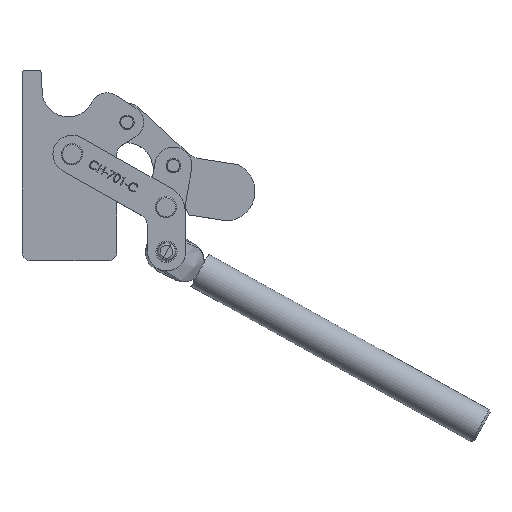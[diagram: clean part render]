
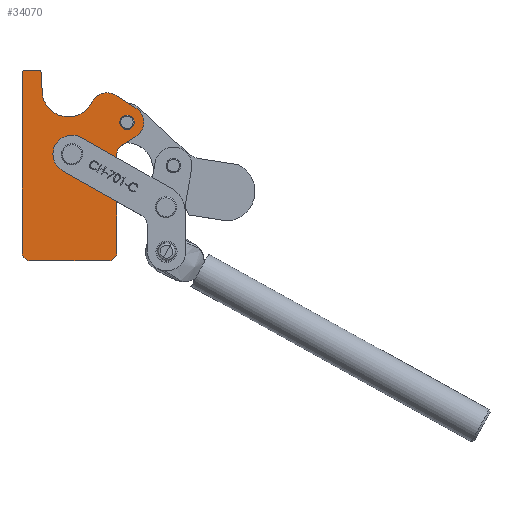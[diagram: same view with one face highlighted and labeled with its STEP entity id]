
A CAD part, top view. The second image highlights one B-rep face of the part: STEP entity #34070.
In plain terms, the highlighted planar face has unit normal (0, 0, 1).
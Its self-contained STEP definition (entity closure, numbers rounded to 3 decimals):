
#1357=FACE_BOUND('',#4411,.T.);
#1358=FACE_BOUND('',#4412,.T.);
#1432=PLANE('',#36249);
#2512=FACE_OUTER_BOUND('',#4410,.T.);
#4410=EDGE_LOOP('',(#22647,#22648,#22649,#22650,#22651,#22652,#22653,#22654,
#22655,#22656,#22657,#22658,#22659,#22660,#22661));
#4411=EDGE_LOOP('',(#22662,#22663));
#4412=EDGE_LOOP('',(#22664,#22665));
#6383=LINE('',#49368,#9156);
#6384=LINE('',#49372,#9157);
#6385=LINE('',#49376,#9158);
#6386=LINE('',#49380,#9159);
#6387=LINE('',#49384,#9160);
#6388=LINE('',#49388,#9161);
#6389=LINE('',#49391,#9162);
#9156=VECTOR('',#39712,1000.);
#9157=VECTOR('',#39715,1000.);
#9158=VECTOR('',#39718,1000.);
#9159=VECTOR('',#39721,1000.);
#9160=VECTOR('',#39724,1000.);
#9161=VECTOR('',#39727,1000.);
#9162=VECTOR('',#39730,1000.);
#11927=CIRCLE('',#36240,3.425);
#11930=CIRCLE('',#36243,3.425);
#11931=CIRCLE('',#36245,4.7);
#11934=CIRCLE('',#36248,4.7);
#11935=CIRCLE('',#36250,8.);
#11936=CIRCLE('',#36251,12.4);
#11937=CIRCLE('',#36252,1.5);
#11938=CIRCLE('',#36253,1.5);
#11939=CIRCLE('',#36254,4.);
#11940=CIRCLE('',#36255,4.);
#11941=CIRCLE('',#36256,4.);
#11942=CIRCLE('',#36257,8.);
#13618=VERTEX_POINT('',#49342);
#13619=VERTEX_POINT('',#49343);
#13622=VERTEX_POINT('',#49352);
#13623=VERTEX_POINT('',#49353);
#13626=VERTEX_POINT('',#49362);
#13627=VERTEX_POINT('',#49363);
#13628=VERTEX_POINT('',#49365);
#13629=VERTEX_POINT('',#49367);
#13630=VERTEX_POINT('',#49369);
#13631=VERTEX_POINT('',#49371);
#13632=VERTEX_POINT('',#49373);
#13633=VERTEX_POINT('',#49375);
#13634=VERTEX_POINT('',#49377);
#13635=VERTEX_POINT('',#49379);
#13636=VERTEX_POINT('',#49381);
#13637=VERTEX_POINT('',#49383);
#13638=VERTEX_POINT('',#49385);
#13639=VERTEX_POINT('',#49387);
#13640=VERTEX_POINT('',#49389);
#17211=EDGE_CURVE('',#13618,#13619,#11927,.T.);
#17215=EDGE_CURVE('',#13619,#13618,#11930,.T.);
#17216=EDGE_CURVE('',#13622,#13623,#11931,.T.);
#17220=EDGE_CURVE('',#13623,#13622,#11934,.T.);
#17221=EDGE_CURVE('',#13626,#13627,#11935,.T.);
#17222=EDGE_CURVE('',#13627,#13628,#11936,.T.);
#17223=EDGE_CURVE('',#13628,#13629,#6383,.T.);
#17224=EDGE_CURVE('',#13629,#13630,#11937,.T.);
#17225=EDGE_CURVE('',#13630,#13631,#6384,.T.);
#17226=EDGE_CURVE('',#13631,#13632,#11938,.T.);
#17227=EDGE_CURVE('',#13632,#13633,#6385,.T.);
#17228=EDGE_CURVE('',#13633,#13634,#11939,.T.);
#17229=EDGE_CURVE('',#13634,#13635,#6386,.T.);
#17230=EDGE_CURVE('',#13635,#13636,#11940,.T.);
#17231=EDGE_CURVE('',#13636,#13637,#6387,.T.);
#17232=EDGE_CURVE('',#13637,#13638,#11941,.T.);
#17233=EDGE_CURVE('',#13638,#13639,#6388,.T.);
#17234=EDGE_CURVE('',#13639,#13640,#11942,.T.);
#17235=EDGE_CURVE('',#13640,#13626,#6389,.T.);
#22647=ORIENTED_EDGE('',*,*,#17221,.T.);
#22648=ORIENTED_EDGE('',*,*,#17222,.T.);
#22649=ORIENTED_EDGE('',*,*,#17223,.T.);
#22650=ORIENTED_EDGE('',*,*,#17224,.T.);
#22651=ORIENTED_EDGE('',*,*,#17225,.T.);
#22652=ORIENTED_EDGE('',*,*,#17226,.T.);
#22653=ORIENTED_EDGE('',*,*,#17227,.T.);
#22654=ORIENTED_EDGE('',*,*,#17228,.T.);
#22655=ORIENTED_EDGE('',*,*,#17229,.T.);
#22656=ORIENTED_EDGE('',*,*,#17230,.T.);
#22657=ORIENTED_EDGE('',*,*,#17231,.T.);
#22658=ORIENTED_EDGE('',*,*,#17232,.T.);
#22659=ORIENTED_EDGE('',*,*,#17233,.T.);
#22660=ORIENTED_EDGE('',*,*,#17234,.T.);
#22661=ORIENTED_EDGE('',*,*,#17235,.T.);
#22662=ORIENTED_EDGE('',*,*,#17211,.F.);
#22663=ORIENTED_EDGE('',*,*,#17215,.F.);
#22664=ORIENTED_EDGE('',*,*,#17216,.F.);
#22665=ORIENTED_EDGE('',*,*,#17220,.F.);
#34070=ADVANCED_FACE('',(#2512,#1357,#1358),#1432,.T.);
#36240=AXIS2_PLACEMENT_3D('',#49344,#39686,#39687);
#36243=AXIS2_PLACEMENT_3D('',#49350,#39693,#39694);
#36245=AXIS2_PLACEMENT_3D('',#49354,#39697,#39698);
#36248=AXIS2_PLACEMENT_3D('',#49360,#39704,#39705);
#36249=AXIS2_PLACEMENT_3D('',#49361,#39706,#39707);
#36250=AXIS2_PLACEMENT_3D('',#49364,#39708,#39709);
#36251=AXIS2_PLACEMENT_3D('',#49366,#39710,#39711);
#36252=AXIS2_PLACEMENT_3D('',#49370,#39713,#39714);
#36253=AXIS2_PLACEMENT_3D('',#49374,#39716,#39717);
#36254=AXIS2_PLACEMENT_3D('',#49378,#39719,#39720);
#36255=AXIS2_PLACEMENT_3D('',#49382,#39722,#39723);
#36256=AXIS2_PLACEMENT_3D('',#49386,#39725,#39726);
#36257=AXIS2_PLACEMENT_3D('',#49390,#39728,#39729);
#39686=DIRECTION('center_axis',(0.,0.,1.));
#39687=DIRECTION('ref_axis',(1.,0.,0.));
#39693=DIRECTION('center_axis',(0.,0.,1.));
#39694=DIRECTION('ref_axis',(1.,0.,0.));
#39697=DIRECTION('center_axis',(0.,0.,1.));
#39698=DIRECTION('ref_axis',(1.,0.,0.));
#39704=DIRECTION('center_axis',(0.,0.,1.));
#39705=DIRECTION('ref_axis',(1.,0.,0.));
#39706=DIRECTION('center_axis',(0.,0.,1.));
#39707=DIRECTION('ref_axis',(1.,0.,0.));
#39708=DIRECTION('center_axis',(0.,0.,1.));
#39709=DIRECTION('ref_axis',(1.,0.,0.));
#39710=DIRECTION('center_axis',(0.,0.,-1.));
#39711=DIRECTION('ref_axis',(1.,0.,0.));
#39712=DIRECTION('',(-0.041,0.999,0.));
#39713=DIRECTION('center_axis',(0.,0.,1.));
#39714=DIRECTION('ref_axis',(1.,0.,0.));
#39715=DIRECTION('',(-1.,0.,0.));
#39716=DIRECTION('center_axis',(0.,0.,1.));
#39717=DIRECTION('ref_axis',(1.,0.,0.));
#39718=DIRECTION('',(0.,-1.,0.));
#39719=DIRECTION('center_axis',(0.,0.,1.));
#39720=DIRECTION('ref_axis',(-1.,0.,0.));
#39721=DIRECTION('',(1.,0.,0.));
#39722=DIRECTION('center_axis',(0.,0.,1.));
#39723=DIRECTION('ref_axis',(1.,0.,0.));
#39724=DIRECTION('',(0.,1.,0.));
#39725=DIRECTION('center_axis',(0.,0.,-1.));
#39726=DIRECTION('ref_axis',(1.,0.,0.));
#39727=DIRECTION('',(0.843,0.537,0.));
#39728=DIRECTION('center_axis',(0.,0.,1.));
#39729=DIRECTION('ref_axis',(1.,0.,0.));
#39730=DIRECTION('',(-0.843,0.537,0.));
#49342=CARTESIAN_POINT('',(1.295,65.398,4.5));
#49343=CARTESIAN_POINT('',(8.145,65.398,4.5));
#49344=CARTESIAN_POINT('Origin',(4.72,65.398,4.5));
#49350=CARTESIAN_POINT('Origin',(4.72,65.398,4.5));
#49352=CARTESIAN_POINT('',(-25.91,50.31,4.5));
#49353=CARTESIAN_POINT('',(-16.51,50.31,4.5));
#49354=CARTESIAN_POINT('Origin',(-21.21,50.31,4.5));
#49360=CARTESIAN_POINT('Origin',(-21.21,50.31,4.5));
#49361=CARTESIAN_POINT('Origin',(-4.607,71.34,4.5));
#49362=CARTESIAN_POINT('',(-0.309,78.087,4.5));
#49363=CARTESIAN_POINT('',(-11.781,74.881,4.5));
#49364=CARTESIAN_POINT('Origin',(-4.607,71.34,4.5));
#49365=CARTESIAN_POINT('',(-35.289,79.856,4.5));
#49366=CARTESIAN_POINT('Origin',(-22.9,80.37,4.5));
#49367=CARTESIAN_POINT('',(-35.65,88.562,4.5));
#49368=CARTESIAN_POINT('',(-35.65,88.562,4.5));
#49369=CARTESIAN_POINT('',(-37.149,90.,4.5));
#49370=CARTESIAN_POINT('Origin',(-37.149,88.5,4.5));
#49371=CARTESIAN_POINT('',(-43.3,90.,4.5));
#49372=CARTESIAN_POINT('',(-43.3,90.,4.5));
#49373=CARTESIAN_POINT('',(-44.8,88.5,4.5));
#49374=CARTESIAN_POINT('Origin',(-43.3,88.5,4.5));
#49375=CARTESIAN_POINT('',(-44.8,4.,4.5));
#49376=CARTESIAN_POINT('',(-44.8,4.,4.5));
#49377=CARTESIAN_POINT('',(-40.8,0.,4.5));
#49378=CARTESIAN_POINT('Origin',(-40.8,4.,4.5));
#49379=CARTESIAN_POINT('',(-4.,0.,4.5));
#49380=CARTESIAN_POINT('',(-4.,0.,4.5));
#49381=CARTESIAN_POINT('',(0.,4.,4.5));
#49382=CARTESIAN_POINT('Origin',(-4.,4.,4.5));
#49383=CARTESIAN_POINT('',(0.,50.711,4.5));
#49384=CARTESIAN_POINT('',(0.,4.,4.5));
#49385=CARTESIAN_POINT('',(1.851,54.084,4.5));
#49386=CARTESIAN_POINT('Origin',(4.,50.711,4.5));
#49387=CARTESIAN_POINT('',(9.018,58.65,4.5));
#49388=CARTESIAN_POINT('',(1.851,54.084,4.5));
#49389=CARTESIAN_POINT('',(9.018,72.145,4.5));
#49390=CARTESIAN_POINT('Origin',(4.72,65.398,4.5));
#49391=CARTESIAN_POINT('',(-0.309,78.087,4.5));
